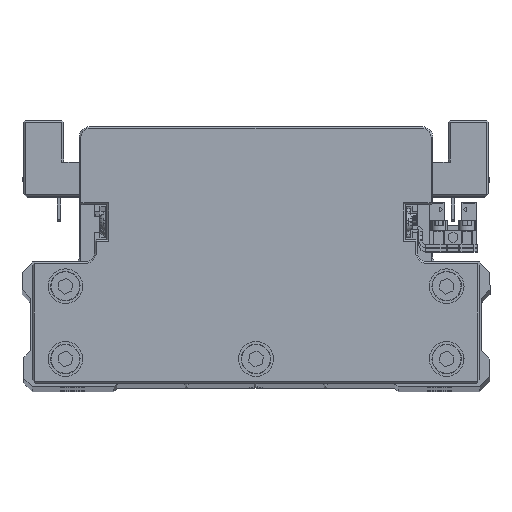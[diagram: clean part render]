
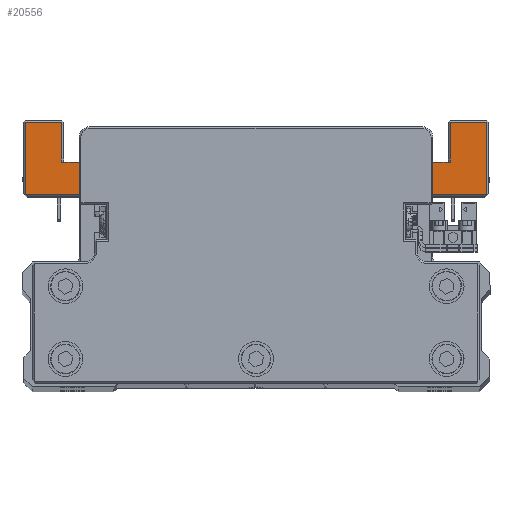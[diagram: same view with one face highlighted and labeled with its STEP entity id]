
A CAD part, top view. The second image highlights one B-rep face of the part: STEP entity #20556.
In plain terms, the highlighted planar face has unit normal (0, 0, 1) as drawn and (0, -1, 0) by its records, which use the part's own axes.
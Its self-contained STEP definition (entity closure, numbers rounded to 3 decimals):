
#286 = VECTOR ( 'NONE', #16555, 1000. ) ;
#932 = DIRECTION ( 'NONE',  ( 0., 0., -1. ) ) ;
#2427 = ORIENTED_EDGE ( 'NONE', *, *, #22108, .F. ) ;
#2504 = EDGE_CURVE ( 'NONE', #27851, #39878, #12355, .T. ) ;
#2530 = CARTESIAN_POINT ( 'NONE',  ( -66.5, -45., -64.5 ) ) ;
#2892 = DIRECTION ( 'NONE',  ( -1., 0., 0. ) ) ;
#3093 = EDGE_CURVE ( 'NONE', #35588, #21225, #38153, .T. ) ;
#3204 = LINE ( 'NONE', #15536, #27646 ) ;
#3727 = VERTEX_POINT ( 'NONE', #36054 ) ;
#4145 = DIRECTION ( 'NONE',  ( 0., -1., 0. ) ) ;
#4224 = CARTESIAN_POINT ( 'NONE',  ( -55.5, -45., -64. ) ) ;
#4249 = EDGE_CURVE ( 'NONE', #22965, #39824, #6438, .T. ) ;
#4410 = LINE ( 'NONE', #16740, #20820 ) ;
#4562 = DIRECTION ( 'NONE',  ( 0., 0., 1. ) ) ;
#4638 = VERTEX_POINT ( 'NONE', #31068 ) ;
#4684 = CARTESIAN_POINT ( 'NONE',  ( -46., -45., -52.5 ) ) ;
#4715 = ORIENTED_EDGE ( 'NONE', *, *, #9496, .T. ) ;
#5051 = CARTESIAN_POINT ( 'NONE',  ( -39.868, -45., -42.987 ) ) ;
#5109 = CARTESIAN_POINT ( 'NONE',  ( -40.066, -45., -43. ) ) ;
#5143 = DIRECTION ( 'NONE',  ( -1., 0., 0. ) ) ;
#5581 = ORIENTED_EDGE ( 'NONE', *, *, #11164, .T. ) ;
#6016 = CARTESIAN_POINT ( 'NONE',  ( 36.217, -45., -42.5 ) ) ;
#6343 = CARTESIAN_POINT ( 'NONE',  ( 46., -45., -54. ) ) ;
#6438 = LINE ( 'NONE', #18770, #25839 ) ;
#6903 = CARTESIAN_POINT ( 'NONE',  ( -66., -45., -43. ) ) ;
#6984 = VERTEX_POINT ( 'NONE', #38834 ) ;
#7168 = FACE_OUTER_BOUND ( 'NONE', #37956, .T. ) ;
#7766 = EDGE_CURVE ( 'NONE', #39824, #27851, #20510, .T. ) ;
#7848 = VECTOR ( 'NONE', #932, 1000. ) ;
#8622 = VERTEX_POINT ( 'NONE', #39926 ) ;
#9063 = CARTESIAN_POINT ( 'NONE',  ( 46., -45., -52.5 ) ) ;
#9127 = AXIS2_PLACEMENT_3D ( 'NONE', #11762, #24086, #36400 ) ;
#9382 = EDGE_CURVE ( 'NONE', #3727, #8622, #31899, .T. ) ;
#9496 = EDGE_CURVE ( 'NONE', #20203, #22965, #14510, .T. ) ;
#10171 = ORIENTED_EDGE ( 'NONE', *, *, #35341, .F. ) ;
#10187 = ORIENTED_EDGE ( 'NONE', *, *, #3093, .T. ) ;
#10277 = CARTESIAN_POINT ( 'NONE',  ( -46., -45., -52.5 ) ) ;
#10427 = EDGE_CURVE ( 'NONE', #33741, #26079, #17148, .T. ) ;
#10470 = VECTOR ( 'NONE', #19221, 1000. ) ;
#10477 = CARTESIAN_POINT ( 'NONE',  ( -77.786, -45., -42.5 ) ) ;
#10520 = CARTESIAN_POINT ( 'NONE',  ( -39.868, -45., -42.987 ) ) ;
#11164 = EDGE_CURVE ( 'NONE', #16910, #3727, #30209, .T. ) ;
#11488 = VECTOR ( 'NONE', #2892, 1000. ) ;
#11762 = CARTESIAN_POINT ( 'NONE',  ( 40.066, -45., -41.5 ) ) ;
#12355 = CIRCLE ( 'NONE', #9127, 1.5 ) ;
#12436 = ORIENTED_EDGE ( 'NONE', *, *, #30093, .T. ) ;
#12471 = EDGE_CURVE ( 'NONE', #8622, #6984, #19925, .T. ) ;
#13167 = CARTESIAN_POINT ( 'NONE',  ( 46., -45., -54. ) ) ;
#13313 = VECTOR ( 'NONE', #4562, 1000. ) ;
#13475 = CARTESIAN_POINT ( 'NONE',  ( 66.5, -45., -43. ) ) ;
#13512 = VERTEX_POINT ( 'NONE', #33335 ) ;
#13621 = ORIENTED_EDGE ( 'NONE', *, *, #14380, .F. ) ;
#14380 = EDGE_CURVE ( 'NONE', #35294, #6984, #18247, .T. ) ;
#14510 = LINE ( 'NONE', #26841, #34509 ) ;
#14802 = CARTESIAN_POINT ( 'NONE',  ( -40.066, -45., -41.5 ) ) ;
#14854 = DIRECTION ( 'NONE',  ( 0., 0., -1. ) ) ;
#15091 = LINE ( 'NONE', #27427, #33463 ) ;
#15536 = CARTESIAN_POINT ( 'NONE',  ( 25.802, -45., -41.111 ) ) ;
#16311 = LINE ( 'NONE', #28632, #7848 ) ;
#16477 = DIRECTION ( 'NONE',  ( 0., 0., -1. ) ) ;
#16555 = DIRECTION ( 'NONE',  ( 1., 0., 0. ) ) ;
#16740 = CARTESIAN_POINT ( 'NONE',  ( 55.5, -45., -52.5 ) ) ;
#16910 = VERTEX_POINT ( 'NONE', #24319 ) ;
#17010 = DIRECTION ( 'NONE',  ( 0., 0., 1. ) ) ;
#17148 = CIRCLE ( 'NONE', #39721, 1.5 ) ;
#18247 = LINE ( 'NONE', #30559, #11488 ) ;
#18345 = ORIENTED_EDGE ( 'NONE', *, *, #35690, .T. ) ;
#18672 = DIRECTION ( 'NONE',  ( 1., 0., 0. ) ) ;
#18770 = CARTESIAN_POINT ( 'NONE',  ( 66.5, -45., -43.5 ) ) ;
#19221 = DIRECTION ( 'NONE',  ( -1., 0., 0. ) ) ;
#19496 = PLANE ( 'NONE',  #25903 ) ;
#19925 = LINE ( 'NONE', #32243, #13313 ) ;
#20134 = CARTESIAN_POINT ( 'NONE',  ( 39.868, -45., -42.987 ) ) ;
#20203 = VERTEX_POINT ( 'NONE', #27659 ) ;
#20510 = LINE ( 'NONE', #32821, #35741 ) ;
#20556 = ADVANCED_FACE ( 'NONE', ( #7168 ), #19496, .T. ) ;
#20820 = VECTOR ( 'NONE', #29057, 1000. ) ;
#21225 = VERTEX_POINT ( 'NONE', #34552 ) ;
#22108 = EDGE_CURVE ( 'NONE', #13512, #35294, #32366, .T. ) ;
#22288 = ORIENTED_EDGE ( 'NONE', *, *, #12471, .T. ) ;
#22806 = DIRECTION ( 'NONE',  ( -1., 0., 0. ) ) ;
#22851 = DIRECTION ( 'NONE',  ( -0.991, 0., -0.132 ) ) ;
#22965 = VERTEX_POINT ( 'NONE', #34907 ) ;
#23939 = VECTOR ( 'NONE', #22806, 1000. ) ;
#24086 = DIRECTION ( 'NONE',  ( 0., 1., 0. ) ) ;
#24319 = CARTESIAN_POINT ( 'NONE',  ( -66.5, -45., -43. ) ) ;
#24552 = EDGE_CURVE ( 'NONE', #13512, #31469, #34028, .T. ) ;
#24935 = VECTOR ( 'NONE', #14854, 1000. ) ;
#25839 = VECTOR ( 'NONE', #31091, 1000. ) ;
#25903 = AXIS2_PLACEMENT_3D ( 'NONE', #31821, #4145, #16477 ) ;
#26079 = VERTEX_POINT ( 'NONE', #5109 ) ;
#26387 = ORIENTED_EDGE ( 'NONE', *, *, #24552, .T. ) ;
#26684 = ORIENTED_EDGE ( 'NONE', *, *, #10427, .T. ) ;
#26841 = CARTESIAN_POINT ( 'NONE',  ( 67., -45., -64. ) ) ;
#27134 = DIRECTION ( 'NONE',  ( 0., 1., 0. ) ) ;
#27427 = CARTESIAN_POINT ( 'NONE',  ( 46., -45., -52.5 ) ) ;
#27646 = VECTOR ( 'NONE', #27867, 1000. ) ;
#27659 = CARTESIAN_POINT ( 'NONE',  ( 56., -45., -64. ) ) ;
#27851 = VERTEX_POINT ( 'NONE', #30895 ) ;
#27867 = DIRECTION ( 'NONE',  ( -0.991, 0., 0.132 ) ) ;
#28632 = CARTESIAN_POINT ( 'NONE',  ( 56., -45., -64.5 ) ) ;
#28832 = VERTEX_POINT ( 'NONE', #9063 ) ;
#28884 = ORIENTED_EDGE ( 'NONE', *, *, #9382, .T. ) ;
#29057 = DIRECTION ( 'NONE',  ( -1., 0., 0. ) ) ;
#29577 = ORIENTED_EDGE ( 'NONE', *, *, #4249, .T. ) ;
#30093 = EDGE_CURVE ( 'NONE', #39878, #35588, #3204, .T. ) ;
#30209 = LINE ( 'NONE', #2530, #24935 ) ;
#30454 = EDGE_CURVE ( 'NONE', #28832, #31469, #15091, .T. ) ;
#30472 = VECTOR ( 'NONE', #18672, 1000. ) ;
#30559 = CARTESIAN_POINT ( 'NONE',  ( -55.5, -45., -52.5 ) ) ;
#30895 = CARTESIAN_POINT ( 'NONE',  ( 40.066, -45., -43. ) ) ;
#30926 = ORIENTED_EDGE ( 'NONE', *, *, #2504, .T. ) ;
#31068 = CARTESIAN_POINT ( 'NONE',  ( 56., -45., -52.5 ) ) ;
#31091 = DIRECTION ( 'NONE',  ( 0., 0., 1. ) ) ;
#31469 = VERTEX_POINT ( 'NONE', #13167 ) ;
#31694 = VECTOR ( 'NONE', #22851, 1000. ) ;
#31821 = CARTESIAN_POINT ( 'NONE',  ( 0., -45., 0. ) ) ;
#31899 = LINE ( 'NONE', #4224, #286 ) ;
#32028 = ORIENTED_EDGE ( 'NONE', *, *, #33640, .T. ) ;
#32243 = CARTESIAN_POINT ( 'NONE',  ( -56., -45., -52.5 ) ) ;
#32366 = LINE ( 'NONE', #4684, #32893 ) ;
#32821 = CARTESIAN_POINT ( 'NONE',  ( 40.066, -45., -43. ) ) ;
#32893 = VECTOR ( 'NONE', #17010, 1000. ) ;
#33335 = CARTESIAN_POINT ( 'NONE',  ( -46., -45., -54. ) ) ;
#33370 = ORIENTED_EDGE ( 'NONE', *, *, #34762, .T. ) ;
#33463 = VECTOR ( 'NONE', #39741, 1000. ) ;
#33640 = EDGE_CURVE ( 'NONE', #21225, #33741, #38198, .T. ) ;
#33741 = VERTEX_POINT ( 'NONE', #5051 ) ;
#34028 = LINE ( 'NONE', #6343, #30472 ) ;
#34509 = VECTOR ( 'NONE', #39155, 1000. ) ;
#34552 = CARTESIAN_POINT ( 'NONE',  ( -36.217, -45., -42.5 ) ) ;
#34583 = LINE ( 'NONE', #6903, #10470 ) ;
#34762 = EDGE_CURVE ( 'NONE', #26079, #16910, #34583, .T. ) ;
#34907 = CARTESIAN_POINT ( 'NONE',  ( 66.5, -45., -64. ) ) ;
#35294 = VERTEX_POINT ( 'NONE', #10277 ) ;
#35341 = EDGE_CURVE ( 'NONE', #4638, #28832, #4410, .T. ) ;
#35588 = VERTEX_POINT ( 'NONE', #6016 ) ;
#35690 = EDGE_CURVE ( 'NONE', #4638, #20203, #16311, .T. ) ;
#35741 = VECTOR ( 'NONE', #5143, 1000. ) ;
#36054 = CARTESIAN_POINT ( 'NONE',  ( -66.5, -45., -64. ) ) ;
#36400 = DIRECTION ( 'NONE',  ( 0., 0., -1. ) ) ;
#36561 = ORIENTED_EDGE ( 'NONE', *, *, #7766, .T. ) ;
#36664 = ORIENTED_EDGE ( 'NONE', *, *, #30454, .F. ) ;
#37956 = EDGE_LOOP ( 'NONE', ( #10187, #32028, #26684, #33370, #5581, #28884, #22288, #13621, #2427, #26387, #36664, #10171, #18345, #4715, #29577, #36561, #30926, #12436 ) ) ;
#38153 = LINE ( 'NONE', #10477, #23939 ) ;
#38198 = LINE ( 'NONE', #10520, #31694 ) ;
#38834 = CARTESIAN_POINT ( 'NONE',  ( -56., -45., -52.5 ) ) ;
#39155 = DIRECTION ( 'NONE',  ( 1., 0., 0. ) ) ;
#39452 = DIRECTION ( 'NONE',  ( 0., 0., -1. ) ) ;
#39721 = AXIS2_PLACEMENT_3D ( 'NONE', #14802, #27134, #39452 ) ;
#39741 = DIRECTION ( 'NONE',  ( 0., 0., -1. ) ) ;
#39824 = VERTEX_POINT ( 'NONE', #13475 ) ;
#39878 = VERTEX_POINT ( 'NONE', #20134 ) ;
#39926 = CARTESIAN_POINT ( 'NONE',  ( -56., -45., -64. ) ) ;
